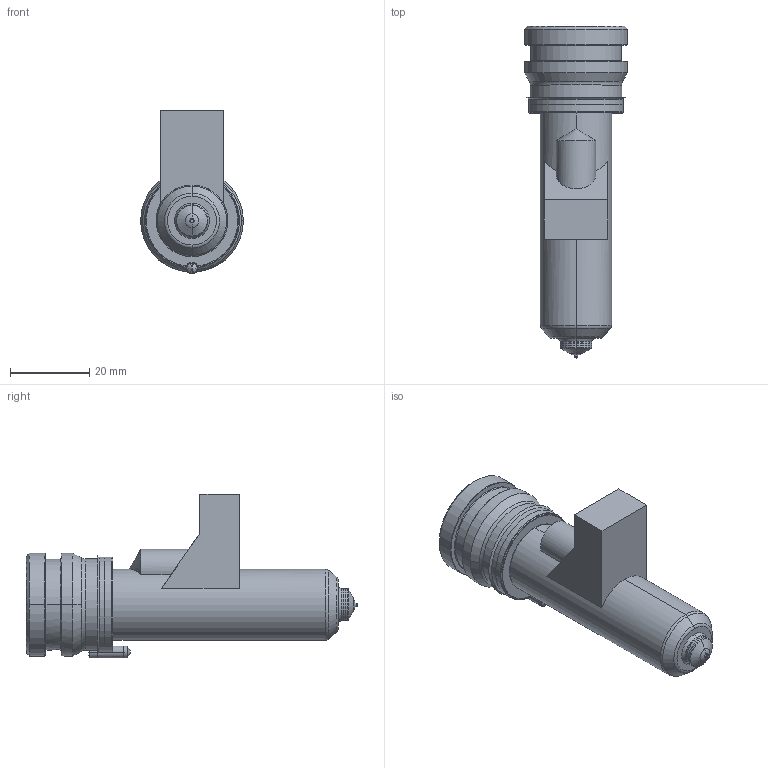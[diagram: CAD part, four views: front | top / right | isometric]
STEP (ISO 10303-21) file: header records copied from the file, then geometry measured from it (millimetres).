
FILE_DESCRIPTION((''),'2;1');
FILE_NAME('MPN-08-24-VSA8-066-M','2026-02-05T13:33:57',('UPTIO'),('Thermoplay S.p.A.'),'CREO PARAMETRIC BY PTC INC, 2023494','CREO PARAMETRIC BY PTC INC, 2023494','');
FILE_SCHEMA(('CONFIG_CONTROL_DESIGN','SHAPE_APPEARANCE_LAYERS_GROUPS'));
Length unit declared in the file: millimetre
Products named in the file (1): MPN-08-24-VSA8-066-M
Bounding box: 26 x 84 x 41.5 mm (x, y, z)
Volume: 17718.7 mm3; surface area: 22669.6 mm2
Topology: 2 solids, 3 shells, 527 faces, 1374 edges, 846 vertices
Faces by surface type: cylinder 176, plane 143, bspline 75, torus 60, cone 58, sphere 9, extrusion 6
Entity records: 28069 total; most frequent: CARTESIAN_POINT 12590, ORIENTED_EDGE 2730, DIRECTION 2497, EDGE_CURVE 1365, AXIS2_PLACEMENT_3D 975, VERTEX_POINT 846, EDGE_LOOP 557, VECTOR 547
